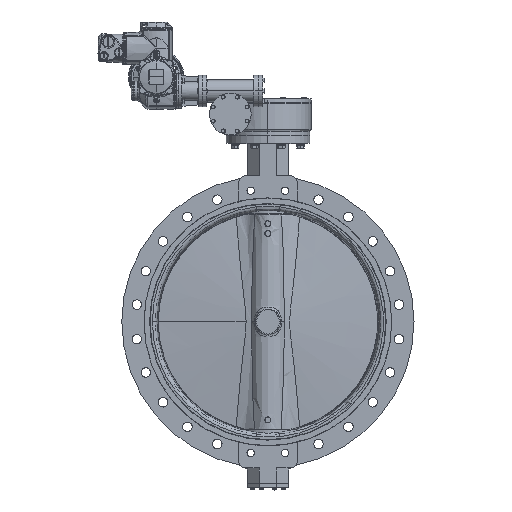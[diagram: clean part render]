
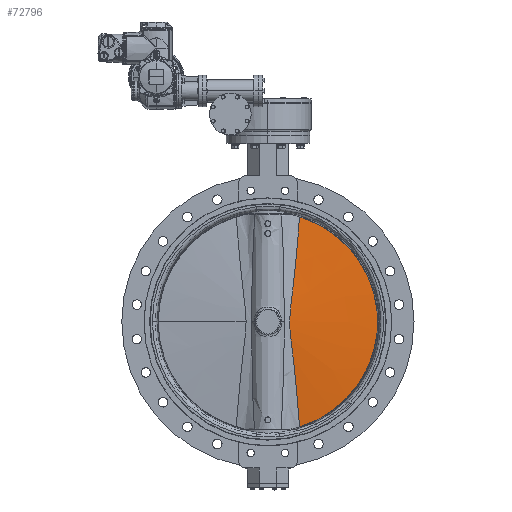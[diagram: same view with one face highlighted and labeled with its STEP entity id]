
A CAD part, top view. The second image highlights one B-rep face of the part: STEP entity #72796.
In plain terms, the highlighted conical face has half-angle 85 degrees and reference radius 394.35 mm.
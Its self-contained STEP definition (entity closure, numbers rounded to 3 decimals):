
#8316 = DIRECTION ( 'NONE',  ( -1., 0., 0. ) ) ;
#8846 = CARTESIAN_POINT ( 'NONE',  ( 90.42, -125.989, 26.438 ) ) ;
#9577 = CARTESIAN_POINT ( 'NONE',  ( 95.603, 173.068, 22.71 ) ) ;
#11006 = CARTESIAN_POINT ( 'NONE',  ( 78.283, -4.017, 33.152 ) ) ;
#11696 = CARTESIAN_POINT ( 'NONE',  ( 113.691, -377.606, 5.5 ) ) ;
#19830 = EDGE_CURVE ( 'NONE', #59924, #210797, #97680, .T. ) ;
#25648 = CARTESIAN_POINT ( 'NONE',  ( 78.378, 7.908, 33.111 ) ) ;
#28531 = CARTESIAN_POINT ( 'NONE',  ( 91.306, 133.797, 25.833 ) ) ;
#43230 = CARTESIAN_POINT ( 'NONE',  ( 78.435, 9.891, 33.087 ) ) ;
#43941 = CARTESIAN_POINT ( 'NONE',  ( 84.879, 78.831, 29.878 ) ) ;
#45360 = CARTESIAN_POINT ( 'NONE',  ( 83.039, -63.173, 30.885 ) ) ;
#47734 = CONICAL_SURFACE ( 'NONE', #136179, 394.35, 1.484 ) ;
#55693 = CARTESIAN_POINT ( 'NONE',  ( 113.691, -377.606, 5.5 ) ) ;
#57930 = CARTESIAN_POINT ( 'NONE',  ( 111.347, 346.101, 8.198 ) ) ;
#59380 = CARTESIAN_POINT ( 'NONE',  ( 93.927, 157.358, 23.98 ) ) ;
#59924 = VERTEX_POINT ( 'NONE', #55693 ) ;
#60098 = CARTESIAN_POINT ( 'NONE',  ( 84.885, -78.884, 29.874 ) ) ;
#62243 = CARTESIAN_POINT ( 'NONE',  ( 88.601, 110.241, 27.632 ) ) ;
#64701 = ORIENTED_EDGE ( 'NONE', *, *, #93151, .T. ) ;
#67275 = CARTESIAN_POINT ( 'NONE',  ( 0., 0., 5.5 ) ) ;
#72796 = ADVANCED_FACE ( 'NONE', ( #170885 ), #47734, .T. ) ;
#76856 = CARTESIAN_POINT ( 'NONE',  ( 111.347, -346.106, 8.198 ) ) ;
#78274 = CARTESIAN_POINT ( 'NONE',  ( 78.663, -15.907, 32.988 ) ) ;
#78993 = CARTESIAN_POINT ( 'NONE',  ( 85.818, 86.684, 29.337 ) ) ;
#87791 = AXIS2_PLACEMENT_3D ( 'NONE', #67275, #169767, #204177 ) ;
#90760 = CARTESIAN_POINT ( 'NONE',  ( 113.691, 377.606, 5.5 ) ) ;
#92217 = CARTESIAN_POINT ( 'NONE',  ( 87.679, 102.389, 28.215 ) ) ;
#93151 = EDGE_CURVE ( 'NONE', #210797, #59924, #146874, .T. ) ;
#93663 = CARTESIAN_POINT ( 'NONE',  ( 108.83, -314.622, 10.885 ) ) ;
#94373 = CARTESIAN_POINT ( 'NONE',  ( 78.282, 1.947, 33.152 ) ) ;
#95101 = CARTESIAN_POINT ( 'NONE',  ( 80.463, -39.582, 32.176 ) ) ;
#97680 = CIRCLE ( 'NONE', #87791, 394.35 ) ;
#102874 = EDGE_LOOP ( 'NONE', ( #195415, #64701 ) ) ;
#109123 = CARTESIAN_POINT ( 'NONE',  ( 88.607, -110.288, 27.629 ) ) ;
#109834 = CARTESIAN_POINT ( 'NONE',  ( 103.369, 251.669, 16.21 ) ) ;
#111266 = CARTESIAN_POINT ( 'NONE',  ( 80.457, 39.522, 32.179 ) ) ;
#111996 = CARTESIAN_POINT ( 'NONE',  ( 91.311, -133.84, 25.83 ) ) ;
#125931 = CARTESIAN_POINT ( 'NONE',  ( 108.83, 314.611, 10.885 ) ) ;
#126673 = CARTESIAN_POINT ( 'NONE',  ( 95.607, -173.104, 22.707 ) ) ;
#127383 = CARTESIAN_POINT ( 'NONE',  ( 78.88, 19.793, 32.893 ) ) ;
#136179 = AXIS2_PLACEMENT_3D ( 'NONE', #137136, #192146, #8316 ) ;
#137136 = CARTESIAN_POINT ( 'NONE',  ( 0., 0., 5.5 ) ) ;
#142769 = CARTESIAN_POINT ( 'NONE',  ( 82.122, 55.259, 31.359 ) ) ;
#143490 = CARTESIAN_POINT ( 'NONE',  ( 79.701, 31.644, 32.527 ) ) ;
#144896 = CARTESIAN_POINT ( 'NONE',  ( 78.884, -19.861, 32.892 ) ) ;
#145623 = CARTESIAN_POINT ( 'NONE',  ( 78.66, 15.837, 32.99 ) ) ;
#146874 = B_SPLINE_CURVE_WITH_KNOTS ( 'NONE', 3,
 ( #90760, #57930, #125931, #109834, #179412, #9577, #59380, #28531, #160337, #62243, #92217, #78993, #43941, #176529, #142769, #111266, #143490, #127383, #145623, #43230, #25648, #178702, #94373, #11006, #161053, #78274, #144896, #195523, #95101, #209484, #45360, #60098, #159622, #212338, #109123, #8846, #111996, #210200, #126673, #194120, #193400, #93663, #76856, #11696 ),
 .UNSPECIFIED., .F., .F.,
 ( 4, 2, 2, 2, 2, 2, 2, 2, 2, 2, 2, 2, 2, 2, 2, 2, 2, 2, 2, 2, 2, 4 ),
 ( 0., 0.095, 0.19, 0.238, 0.262, 0.285, 0.309, 0.333, 0.357, 0.369, 0.374, 0.38, 0.392, 0.404, 0.428, 0.452, 0.475, 0.499, 0.523, 0.571, 0.666, 0.761 ),
 .UNSPECIFIED. ) ;
#154597 = CARTESIAN_POINT ( 'NONE',  ( 113.691, 377.606, 5.5 ) ) ;
#159622 = CARTESIAN_POINT ( 'NONE',  ( 85.824, -86.736, 29.333 ) ) ;
#160337 = CARTESIAN_POINT ( 'NONE',  ( 90.415, 125.945, 26.442 ) ) ;
#161053 = CARTESIAN_POINT ( 'NONE',  ( 78.362, -7.985, 33.118 ) ) ;
#169767 = DIRECTION ( 'NONE',  ( 0., 0., 1. ) ) ;
#170885 = FACE_OUTER_BOUND ( 'NONE', #102874, .T. ) ;
#176529 = CARTESIAN_POINT ( 'NONE',  ( 83.032, 63.118, 30.888 ) ) ;
#178702 = CARTESIAN_POINT ( 'NONE',  ( 78.301, 3.936, 33.144 ) ) ;
#179412 = CARTESIAN_POINT ( 'NONE',  ( 100.425, 220.216, 18.85 ) ) ;
#192146 = DIRECTION ( 'NONE',  ( 0., 0., -1. ) ) ;
#193400 = CARTESIAN_POINT ( 'NONE',  ( 103.371, -251.69, 16.208 ) ) ;
#194120 = CARTESIAN_POINT ( 'NONE',  ( 100.428, -220.243, 18.848 ) ) ;
#195415 = ORIENTED_EDGE ( 'NONE', *, *, #19830, .T. ) ;
#195523 = CARTESIAN_POINT ( 'NONE',  ( 79.707, -31.707, 32.524 ) ) ;
#204177 = DIRECTION ( 'NONE',  ( 1., 0., 0. ) ) ;
#209484 = CARTESIAN_POINT ( 'NONE',  ( 82.128, -55.316, 31.356 ) ) ;
#210200 = CARTESIAN_POINT ( 'NONE',  ( 93.931, -157.396, 23.977 ) ) ;
#210797 = VERTEX_POINT ( 'NONE', #154597 ) ;
#212338 = CARTESIAN_POINT ( 'NONE',  ( 87.685, -102.438, 28.211 ) ) ;
